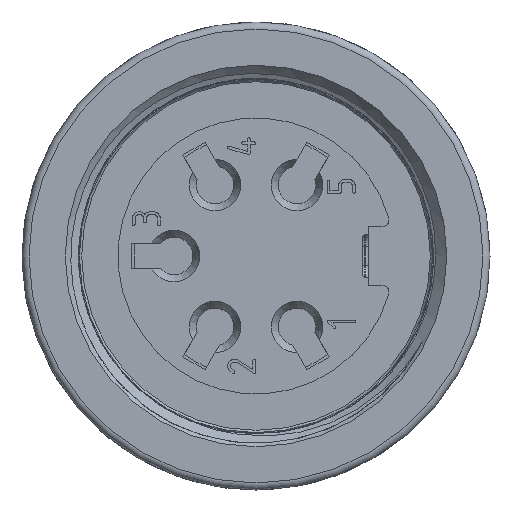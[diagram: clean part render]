
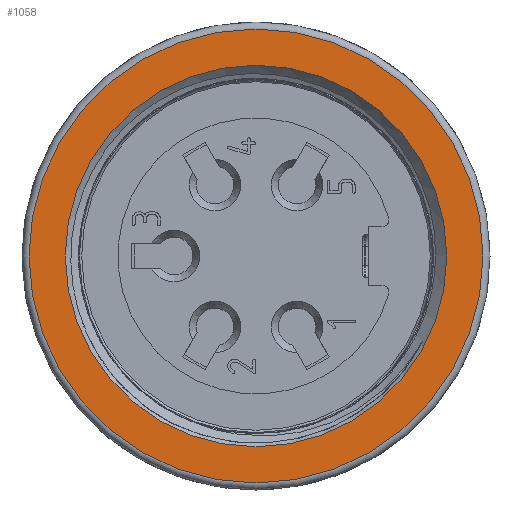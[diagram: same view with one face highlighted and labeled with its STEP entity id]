
A CAD part, left-side view. The second image highlights one B-rep face of the part: STEP entity #1058.
In plain terms, the highlighted planar face has unit normal (-1, 0, 0).
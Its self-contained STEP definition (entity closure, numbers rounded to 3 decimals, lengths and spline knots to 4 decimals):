
#816=FACE_BOUND('',#2099,.T.);
#817=FACE_BOUND('',#2100,.T.);
#1058=ADVANCED_FACE('',(#816,#817),#1403,.T.);
#1403=PLANE('',#8566);
#2099=EDGE_LOOP('',(#3883));
#2100=EDGE_LOOP('',(#3884));
#2505=CIRCLE('',#8564,9.7);
#2506=CIRCLE('',#8565,8.15);
#3883=ORIENTED_EDGE('',*,*,#6648,.T.);
#3884=ORIENTED_EDGE('',*,*,#6649,.T.);
#5619=VERTEX_POINT('',#14451);
#5620=VERTEX_POINT('',#14453);
#6648=EDGE_CURVE('',#5619,#5619,#2505,.T.);
#6649=EDGE_CURVE('',#5620,#5620,#2506,.T.);
#8564=AXIS2_PLACEMENT_3D('',#14450,#9849,#9850);
#8565=AXIS2_PLACEMENT_3D('',#14452,#9851,#9852);
#8566=AXIS2_PLACEMENT_3D('',#14454,#9853,#9854);
#9849=DIRECTION('',(-1.,0.,0.));
#9850=DIRECTION('',(0.,-1.,0.));
#9851=DIRECTION('',(1.,0.,0.));
#9852=DIRECTION('',(0.,-1.,0.));
#9853=DIRECTION('',(-1.,0.,0.));
#9854=DIRECTION('',(0.,-1.,0.));
#14450=CARTESIAN_POINT('',(0.3,0.,0.));
#14451=CARTESIAN_POINT('',(0.3,-9.7,0.));
#14452=CARTESIAN_POINT('',(0.3,0.,0.));
#14453=CARTESIAN_POINT('',(0.3,-8.15,0.));
#14454=CARTESIAN_POINT('',(0.3,0.,0.));
